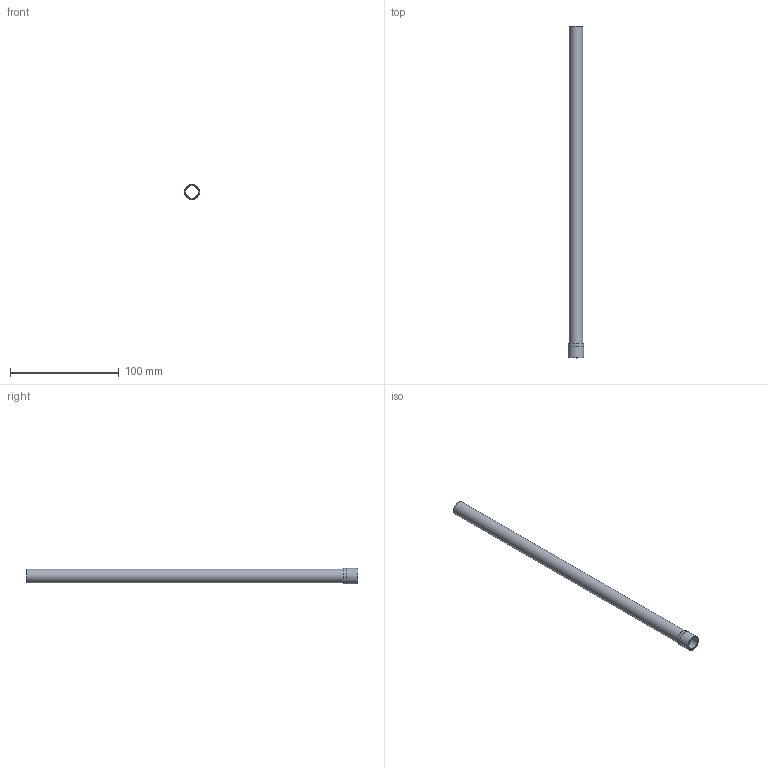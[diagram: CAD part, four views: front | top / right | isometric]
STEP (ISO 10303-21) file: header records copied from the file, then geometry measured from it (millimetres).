
FILE_DESCRIPTION(/* description */ (''),/* implementation_level */ '2;1');
FILE_NAME(/* name */ 'C:/Users/drich/Desktop/HF500T-12 v1.step',/* time_stamp */ '2019-12-30T13:27:15-06:00',/* author */ (''),/* organization */ (''),/* preprocessor_version */ 'ST-DEVELOPER v18',/* originating_system */ 'Autodesk Translation Framework v8.12.0.6',/* authorisation */ '');
FILE_SCHEMA (('AUTOMOTIVE_DESIGN { 1 0 10303 214 3 1 1 }'));
Length unit declared in the file: inch
Products named in the file (1): HF500T-12
Bounding box: 14.33 x 304.8 x 14.33 mm (x, y, z)
Volume: 8583.9 mm3; surface area: 23126.3 mm2
Topology: 1 solids, 1 shells, 12 faces, 30 edges, 22 vertices
Faces by surface type: plane 4, cylinder 4, torus 3, cone 1
Full cylindrical faces by diameter (mm): 11.278 x1, 12.7 x1, 14.143 x1, 14.326 x1
Entity records: 426 total; most frequent: DIRECTION 81, CARTESIAN_POINT 65, ORIENTED_EDGE 60, AXIS2_PLACEMENT_3D 38, EDGE_CURVE 30, CIRCLE 25, VERTEX_POINT 22, EDGE_LOOP 16
